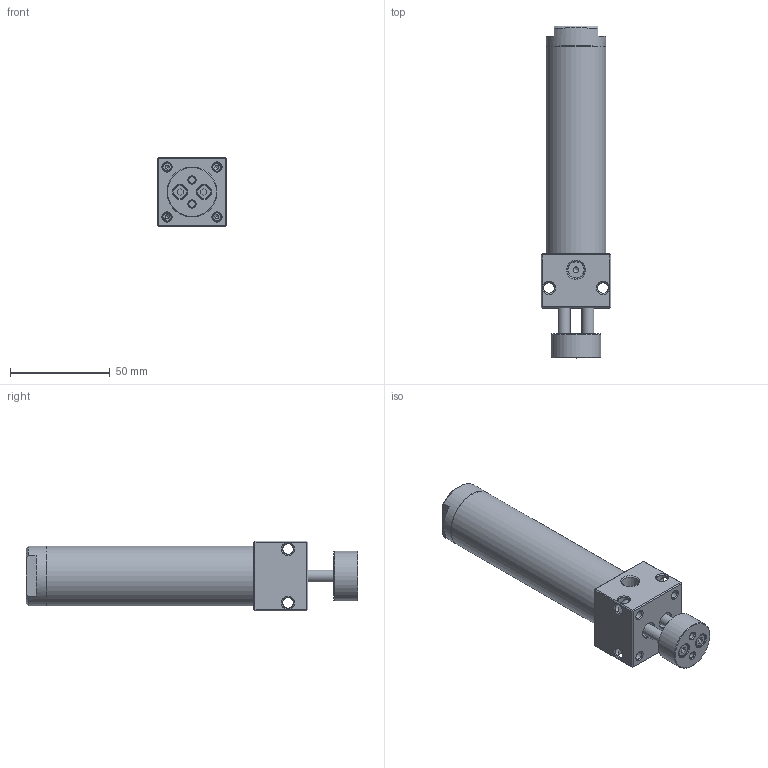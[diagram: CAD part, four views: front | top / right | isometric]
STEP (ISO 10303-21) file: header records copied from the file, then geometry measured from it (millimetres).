
FILE_DESCRIPTION((''),'2;1');
FILE_NAME('I:\3D電子目錄\氣缸\DBT\DBT\DBT25\DBT25x50.stp','2007-10-08T08:56:56',('Administrator'),(''),'Autodesk Inventor 2008','Autodesk Inventor 2008','');
FILE_SCHEMA(('AUTOMOTIVE_DESIGN { 1 0 10303 214 1 1 1 1 }'));
Length unit declared in the file: millimetre
Products named in the file (1): DBT25x50
Bounding box: 35 x 166 x 35 mm (x, y, z)
Volume: 69976.9 mm3; surface area: 37900.1 mm2
Topology: 1 solids, 5 shells, 172 faces, 396 edges, 239 vertices
Faces by surface type: plane 57, bspline 54, cone 38, cylinder 23
Full cylindrical faces by diameter (mm): 3 x1, 3.4 x1, 4 x1, 6 x3, 6.5 x1, 7 x1, 8 x1, 9 x1, 16 x1, 23.8 x2, 25 x2, 25.8 x2, 27 x2, 27.2 x2, 30 x2
Entity records: 5091 total; most frequent: CARTESIAN_POINT 1849, DIRECTION 622, ORIENTED_EDGE 548, EDGE_LOOP 308, EDGE_CURVE 274, AXIS2_PLACEMENT_3D 265, VERTEX_POINT 212, FACE_OUTER_BOUND 172
